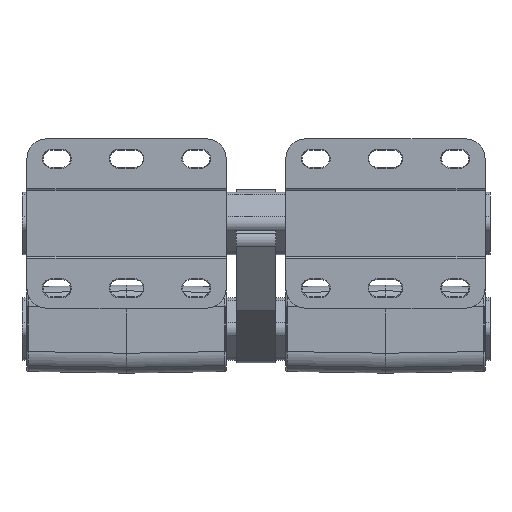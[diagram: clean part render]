
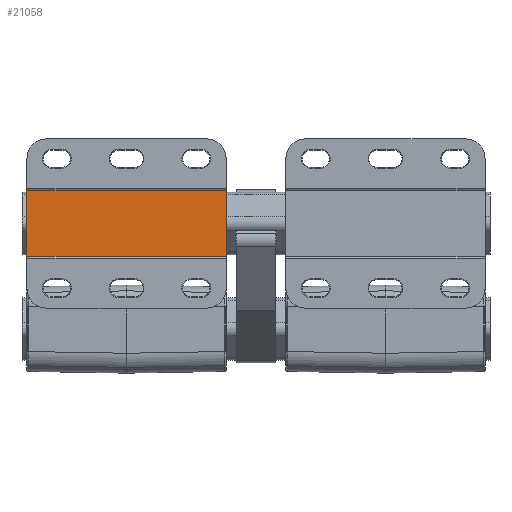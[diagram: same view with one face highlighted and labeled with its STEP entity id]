
A CAD part, left-side view. The second image highlights one B-rep face of the part: STEP entity #21058.
In plain terms, the highlighted planar face has unit normal (-1, 0, 0) as drawn and (0, 0, -1) by its records, which use the part's own axes.
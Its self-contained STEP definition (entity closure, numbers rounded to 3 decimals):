
#15868=CARTESIAN_POINT('',(-106.,0.0,-7.418));
#15869=VERTEX_POINT('',#15868);
#15877=CARTESIAN_POINT('',(-40.0,0.0,-7.418));
#15878=VERTEX_POINT('',#15877);
#15879=CARTESIAN_POINT('',(-40.0,0.0,-7.418));
#15880=DIRECTION('',(-1.0,0.0,0.0));
#15881=VECTOR('',#15880,66.);
#15882=LINE('',#15879,#15881);
#15883=EDGE_CURVE('',#15878,#15869,#15882,.T.);
#20659=CARTESIAN_POINT('',(-40.0,200.0,-7.418));
#20660=VERTEX_POINT('',#20659);
#20668=CARTESIAN_POINT('',(-106.,200.0,-7.418));
#20669=VERTEX_POINT('',#20668);
#20670=CARTESIAN_POINT('',(-106.,200.0,-7.418));
#20671=DIRECTION('',(1.0,0.0,0.0));
#20672=VECTOR('',#20671,66.);
#20673=LINE('',#20670,#20672);
#20674=EDGE_CURVE('',#20669,#20660,#20673,.T.);
#21031=CARTESIAN_POINT('',(-106.,0.0,-7.418));
#21032=DIRECTION('',(0.0,1.0,0.0));
#21033=VECTOR('',#21032,200.0);
#21034=LINE('',#21031,#21033);
#21035=EDGE_CURVE('',#15869,#20669,#21034,.T.);
#21042=CARTESIAN_POINT('',(-106.,0.0,-7.418));
#21043=DIRECTION('',(0.0,0.0,-1.0));
#21044=DIRECTION('',(-1.0,0.0,0.0));
#21045=AXIS2_PLACEMENT_3D('',#21042,#21043,#21044);
#21046=PLANE('',#21045);
#21047=ORIENTED_EDGE('',*,*,#20674,.T.);
#21048=CARTESIAN_POINT('',(-40.0,0.0,-7.418));
#21049=DIRECTION('',(0.0,1.0,0.0));
#21050=VECTOR('',#21049,200.0);
#21051=LINE('',#21048,#21050);
#21052=EDGE_CURVE('',#15878,#20660,#21051,.T.);
#21053=ORIENTED_EDGE('',*,*,#21052,.F.);
#21054=ORIENTED_EDGE('',*,*,#15883,.T.);
#21055=ORIENTED_EDGE('',*,*,#21035,.T.);
#21056=EDGE_LOOP('',(#21047,#21053,#21054,#21055));
#21057=FACE_OUTER_BOUND('',#21056,.T.);
#21058=ADVANCED_FACE('',(#21057),#21046,.T.);
